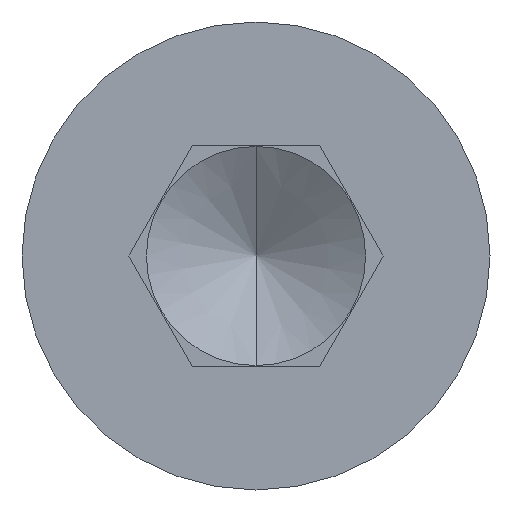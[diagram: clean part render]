
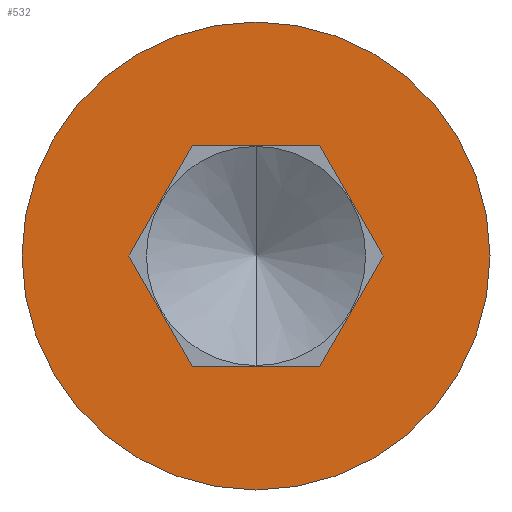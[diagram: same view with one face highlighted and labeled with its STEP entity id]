
A CAD part, left-side view. The second image highlights one B-rep face of the part: STEP entity #532.
In plain terms, the highlighted planar face has unit normal (-1, 0, 0).
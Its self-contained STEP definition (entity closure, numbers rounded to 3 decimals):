
#2 = EDGE_CURVE ( 'NONE', #525, #216, #501, .T. ) ;
#13 = CARTESIAN_POINT ( 'NONE',  ( -5., 2.125, 0. ) ) ;
#15 = DIRECTION ( 'NONE',  ( 0., 0.5, -0.866 ) ) ;
#17 = VERTEX_POINT ( 'NONE', #396 ) ;
#27 = DIRECTION ( 'NONE',  ( 1., 0., 0. ) ) ;
#37 = ORIENTED_EDGE ( 'NONE', *, *, #182, .T. ) ;
#39 = DIRECTION ( 'NONE',  ( 0., -1., 0. ) ) ;
#46 = VECTOR ( 'NONE', #194, 1000. ) ;
#57 = DIRECTION ( 'NONE',  ( 0., 1., 0. ) ) ;
#87 = VECTOR ( 'NONE', #456, 1000. ) ;
#92 = CARTESIAN_POINT ( 'NONE',  ( -5., -1.155, 2. ) ) ;
#101 = LINE ( 'NONE', #502, #87 ) ;
#121 = ORIENTED_EDGE ( 'NONE', *, *, #531, .T. ) ;
#127 = CARTESIAN_POINT ( 'NONE',  ( -5., 2.309, 0. ) ) ;
#151 = PLANE ( 'NONE',  #475 ) ;
#152 = EDGE_LOOP ( 'NONE', ( #564, #225 ) ) ;
#154 = EDGE_CURVE ( 'NONE', #17, #362, #388, .T. ) ;
#156 = DIRECTION ( 'NONE',  ( 1., 0., 0. ) ) ;
#157 = LINE ( 'NONE', #459, #46 ) ;
#172 = ORIENTED_EDGE ( 'NONE', *, *, #2, .T. ) ;
#182 = EDGE_CURVE ( 'NONE', #216, #378, #398, .T. ) ;
#184 = CARTESIAN_POINT ( 'NONE',  ( -5., -1.155, -2. ) ) ;
#189 = CARTESIAN_POINT ( 'NONE',  ( -5., -2.309, 0. ) ) ;
#191 = ORIENTED_EDGE ( 'NONE', *, *, #417, .T. ) ;
#194 = DIRECTION ( 'NONE',  ( 0., -0.5, -0.866 ) ) ;
#197 = CARTESIAN_POINT ( 'NONE',  ( -5., -2.309, 0. ) ) ;
#210 = FACE_BOUND ( 'NONE', #349, .T. ) ;
#216 = VERTEX_POINT ( 'NONE', #330 ) ;
#217 = AXIS2_PLACEMENT_3D ( 'NONE', #414, #156, #458 ) ;
#225 = ORIENTED_EDGE ( 'NONE', *, *, #154, .F. ) ;
#227 = VECTOR ( 'NONE', #57, 1000. ) ;
#231 = CARTESIAN_POINT ( 'NONE',  ( -5., 2.125, -2. ) ) ;
#240 = CARTESIAN_POINT ( 'NONE',  ( -5., 1.155, -2. ) ) ;
#245 = DIRECTION ( 'NONE',  ( -1., 0., 0. ) ) ;
#291 = CARTESIAN_POINT ( 'NONE',  ( -5., 0., 0. ) ) ;
#301 = EDGE_CURVE ( 'NONE', #378, #558, #157, .T. ) ;
#317 = CARTESIAN_POINT ( 'NONE',  ( -5., 2.309, 0. ) ) ;
#327 = VECTOR ( 'NONE', #15, 1000. ) ;
#328 = DIRECTION ( 'NONE',  ( 0., 0., 1. ) ) ;
#330 = CARTESIAN_POINT ( 'NONE',  ( -5., 1.155, 2. ) ) ;
#341 = ORIENTED_EDGE ( 'NONE', *, *, #507, .T. ) ;
#344 = LINE ( 'NONE', #231, #227 ) ;
#349 = EDGE_LOOP ( 'NONE', ( #341, #121, #172, #37, #445, #191 ) ) ;
#358 = FACE_OUTER_BOUND ( 'NONE', #152, .T. ) ;
#362 = VERTEX_POINT ( 'NONE', #449 ) ;
#378 = VERTEX_POINT ( 'NONE', #92 ) ;
#388 = CIRCLE ( 'NONE', #217, 4.25 ) ;
#389 = VECTOR ( 'NONE', #430, 1000. ) ;
#396 = CARTESIAN_POINT ( 'NONE',  ( -5., 0., -4.25 ) ) ;
#398 = LINE ( 'NONE', #543, #485 ) ;
#414 = CARTESIAN_POINT ( 'NONE',  ( -5., 0., 0. ) ) ;
#417 = EDGE_CURVE ( 'NONE', #558, #452, #562, .T. ) ;
#427 = VERTEX_POINT ( 'NONE', #240 ) ;
#430 = DIRECTION ( 'NONE',  ( 0., -0.5, 0.866 ) ) ;
#445 = ORIENTED_EDGE ( 'NONE', *, *, #301, .T. ) ;
#449 = CARTESIAN_POINT ( 'NONE',  ( -5., 0., 4.25 ) ) ;
#452 = VERTEX_POINT ( 'NONE', #184 ) ;
#456 = DIRECTION ( 'NONE',  ( 0., 0.5, 0.866 ) ) ;
#458 = DIRECTION ( 'NONE',  ( 0., 0., 1. ) ) ;
#459 = CARTESIAN_POINT ( 'NONE',  ( -5., -1.155, 2. ) ) ;
#475 = AXIS2_PLACEMENT_3D ( 'NONE', #13, #245, #545 ) ;
#485 = VECTOR ( 'NONE', #39, 1000. ) ;
#501 = LINE ( 'NONE', #127, #389 ) ;
#502 = CARTESIAN_POINT ( 'NONE',  ( -5., 1.155, -2. ) ) ;
#504 = AXIS2_PLACEMENT_3D ( 'NONE', #291, #27, #328 ) ;
#507 = EDGE_CURVE ( 'NONE', #452, #427, #344, .T. ) ;
#525 = VERTEX_POINT ( 'NONE', #317 ) ;
#530 = CIRCLE ( 'NONE', #504, 4.25 ) ;
#531 = EDGE_CURVE ( 'NONE', #427, #525, #101, .T. ) ;
#532 = ADVANCED_FACE ( 'NONE', ( #210, #358 ), #151, .T. ) ;
#543 = CARTESIAN_POINT ( 'NONE',  ( -5., 2.125, 2. ) ) ;
#545 = DIRECTION ( 'NONE',  ( 0., 0., 1. ) ) ;
#558 = VERTEX_POINT ( 'NONE', #197 ) ;
#561 = EDGE_CURVE ( 'NONE', #362, #17, #530, .T. ) ;
#562 = LINE ( 'NONE', #189, #327 ) ;
#564 = ORIENTED_EDGE ( 'NONE', *, *, #561, .F. ) ;
